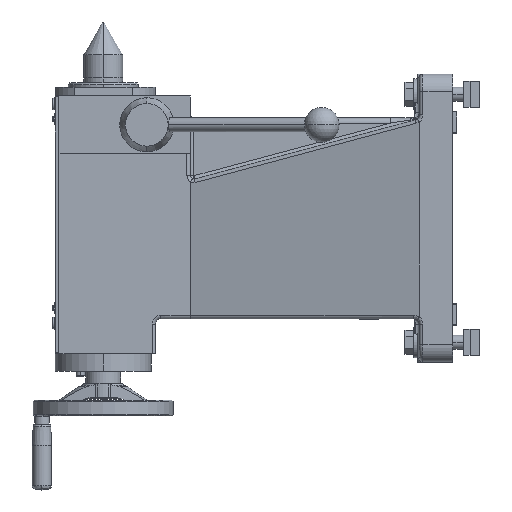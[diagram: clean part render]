
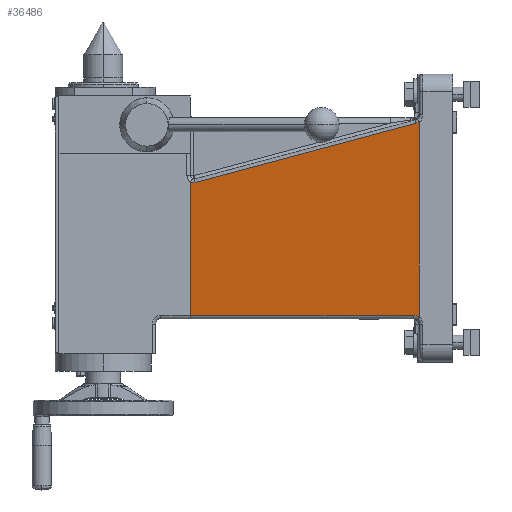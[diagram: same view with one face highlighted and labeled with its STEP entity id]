
A CAD part, left-side view. The second image highlights one B-rep face of the part: STEP entity #36486.
In plain terms, the highlighted planar face has unit normal (-0.975, 0.223, 0).
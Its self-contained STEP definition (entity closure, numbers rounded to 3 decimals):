
#2150 = CARTESIAN_POINT ( 'NONE',  ( -70., 300., -276. ) ) ;
#5100 = CARTESIAN_POINT ( 'NONE',  ( -129.532, 40.042, -276.902 ) ) ;
#5140 =( BOUNDED_CURVE ( )  B_SPLINE_CURVE ( 3, ( #74798, #40027, #5100, #45929 ),
 .UNSPECIFIED., .F., .F. ) 
 B_SPLINE_CURVE_WITH_KNOTS ( ( 4, 4 ),
 ( 1.571, 2.306 ),
 .UNSPECIFIED. ) 
 CURVE ( )  GEOMETRIC_REPRESENTATION_ITEM ( )  RATIONAL_B_SPLINE_CURVE ( ( 1., 0.955, 0.955, 1. ) ) 
 REPRESENTATION_ITEM ( '' )  );
#7210 = CARTESIAN_POINT ( 'NONE',  ( -130., 38., -312. ) ) ;
#7223 = CARTESIAN_POINT ( 'NONE',  ( -129.958, 38.182, -54.11 ) ) ;
#7403 = CARTESIAN_POINT ( 'NONE',  ( -71.186, 294.822, -124.017 ) ) ;
#7612 = CARTESIAN_POINT ( 'NONE',  ( -70., 300., -123.662 ) ) ;
#9953 = LINE ( 'NONE', #35802, #25435 ) ;
#10918 = CARTESIAN_POINT ( 'NONE',  ( -129.984, 38.069, -54.285 ) ) ;
#11394 = ORIENTED_EDGE ( 'NONE', *, *, #54700, .T. ) ;
#11912 = VERTEX_POINT ( 'NONE', #54170 ) ;
#12667 = CARTESIAN_POINT ( 'NONE',  ( -71.186, 294.822, -124.017 ) ) ;
#13870 = VERTEX_POINT ( 'NONE', #58529 ) ;
#14483 = LINE ( 'NONE', #25034, #72706 ) ;
#16163 = VERTEX_POINT ( 'NONE', #24590 ) ;
#16277 = CARTESIAN_POINT ( 'NONE',  ( -129.984, 38.069, -278.412 ) ) ;
#16801 = CARTESIAN_POINT ( 'NONE',  ( -129.958, 38.182, -54.11 ) ) ;
#16862 = EDGE_CURVE ( 'NONE', #45874, #43567, #32208, .T. ) ;
#17243 = FACE_OUTER_BOUND ( 'NONE', #44097, .T. ) ;
#21606 = VERTEX_POINT ( 'NONE', #7612 ) ;
#22131 = CARTESIAN_POINT ( 'NONE',  ( -130., 38., -278.105 ) ) ;
#24074 = ORIENTED_EDGE ( 'NONE', *, *, #53582, .T. ) ;
#24366 = CARTESIAN_POINT ( 'NONE',  ( -70., 300., -123.662 ) ) ;
#24509 = CARTESIAN_POINT ( 'NONE',  ( -129.688, 39.364, -55.18 ) ) ;
#24590 = CARTESIAN_POINT ( 'NONE',  ( -129.958, 38.182, -54.11 ) ) ;
#25014 = CARTESIAN_POINT ( 'NONE',  ( -70., 300., -276. ) ) ;
#25034 = CARTESIAN_POINT ( 'NONE',  ( -70., 300., 0. ) ) ;
#25435 = VECTOR ( 'NONE', #47014, 1000. ) ;
#25732 = ORIENTED_EDGE ( 'NONE', *, *, #16862, .T. ) ;
#27209 = CARTESIAN_POINT ( 'NONE',  ( -70., 300., -312. ) ) ;
#27749 = CARTESIAN_POINT ( 'NONE',  ( -129.974, 38.115, -278.505 ) ) ;
#28410 = VERTEX_POINT ( 'NONE', #7403 ) ;
#28744 = B_SPLINE_CURVE_WITH_KNOTS ( 'NONE', 3,
 ( #68421, #27749, #16277, #56978, #22131, #62841 ),
 .UNSPECIFIED., .F., .F.,
 ( 4, 2, 4 ),
 ( 0., 0., 0.001 ),
 .UNSPECIFIED. ) ;
#29275 = VECTOR ( 'NONE', #53802, 1000. ) ;
#29707 = EDGE_CURVE ( 'NONE', #16163, #36391, #53544, .T. ) ;
#30398 = VECTOR ( 'NONE', #59872, 1000. ) ;
#30601 = EDGE_CURVE ( 'NONE', #28410, #21606, #70279, .T. ) ;
#30650 = CARTESIAN_POINT ( 'NONE',  ( -129.367, 40.764, -55.943 ) ) ;
#30902 = DIRECTION ( 'NONE',  ( 0., 0., 1. ) ) ;
#32208 = LINE ( 'NONE', #25014, #30398 ) ;
#34162 = CARTESIAN_POINT ( 'NONE',  ( -130., 38., -54.696 ) ) ;
#34720 = AXIS2_PLACEMENT_3D ( 'NONE', #27209, #73715, #38972 ) ;
#35802 = CARTESIAN_POINT ( 'NONE',  ( -59.815, 344.473, -137.321 ) ) ;
#36391 = VERTEX_POINT ( 'NONE', #55250 ) ;
#36486 = ADVANCED_FACE ( 'NONE', ( #17243 ), #50411, .F. ) ;
#36661 = ORIENTED_EDGE ( 'NONE', *, *, #67414, .T. ) ;
#38972 = DIRECTION ( 'NONE',  ( 0.223, 0.975, 0. ) ) ;
#40027 = CARTESIAN_POINT ( 'NONE',  ( -128.996, 42.384, -276. ) ) ;
#40280 = CARTESIAN_POINT ( 'NONE',  ( -128.421, 44.893, -276. ) ) ;
#41039 = CARTESIAN_POINT ( 'NONE',  ( -130., 38., -278. ) ) ;
#41456 = EDGE_CURVE ( 'NONE', #36391, #28410, #9953, .T. ) ;
#41766 = CARTESIAN_POINT ( 'NONE',  ( -70.789, 296.556, -124.482 ) ) ;
#43567 = VERTEX_POINT ( 'NONE', #40280 ) ;
#44097 = EDGE_LOOP ( 'NONE', ( #66941, #36661, #70723, #62753, #69850, #58754, #25732, #11394, #24074 ) ) ;
#44819 = LINE ( 'NONE', #7210, #29275 ) ;
#45874 = VERTEX_POINT ( 'NONE', #2150 ) ;
#45910 = CARTESIAN_POINT ( 'NONE',  ( -129.997, 38.011, -54.487 ) ) ;
#45929 = CARTESIAN_POINT ( 'NONE',  ( -129.958, 38.182, -278.586 ) ) ;
#47014 = DIRECTION ( 'NONE',  ( 0.216, 0.943, -0.253 ) ) ;
#50411 = PLANE ( 'NONE',  #34720 ) ;
#51711 = CARTESIAN_POINT ( 'NONE',  ( -129.974, 38.116, -54.191 ) ) ;
#53544 =( BOUNDED_CURVE ( )  B_SPLINE_CURVE ( 3, ( #7223, #24509, #30650, #71297 ),
 .UNSPECIFIED., .F., .F. ) 
 B_SPLINE_CURVE_WITH_KNOTS ( ( 4, 4 ),
 ( 3.977, 4.451 ),
 .UNSPECIFIED. ) 
 CURVE ( )  GEOMETRIC_REPRESENTATION_ITEM ( )  RATIONAL_B_SPLINE_CURVE ( ( 1., 0.981, 0.981, 1. ) ) 
 REPRESENTATION_ITEM ( '' )  );
#53582 = EDGE_CURVE ( 'NONE', #13870, #56426, #28744, .T. ) ;
#53802 = DIRECTION ( 'NONE',  ( 0., 0., 1. ) ) ;
#54170 = CARTESIAN_POINT ( 'NONE',  ( -130., 38., -54.696 ) ) ;
#54700 = EDGE_CURVE ( 'NONE', #43567, #13870, #5140, .T. ) ;
#55250 = CARTESIAN_POINT ( 'NONE',  ( -129.014, 42.305, -56.355 ) ) ;
#55941 = EDGE_CURVE ( 'NONE', #56426, #11912, #44819, .T. ) ;
#56426 = VERTEX_POINT ( 'NONE', #41039 ) ;
#56978 = CARTESIAN_POINT ( 'NONE',  ( -129.997, 38.011, -278.209 ) ) ;
#58529 = CARTESIAN_POINT ( 'NONE',  ( -129.958, 38.182, -278.586 ) ) ;
#58754 = ORIENTED_EDGE ( 'NONE', *, *, #71220, .F. ) ;
#59237 = CARTESIAN_POINT ( 'NONE',  ( -70.379, 298.346, -124.359 ) ) ;
#59872 = DIRECTION ( 'NONE',  ( -0.223, -0.975, 0. ) ) ;
#62753 = ORIENTED_EDGE ( 'NONE', *, *, #41456, .T. ) ;
#62841 = CARTESIAN_POINT ( 'NONE',  ( -130., 38., -278. ) ) ;
#66941 = ORIENTED_EDGE ( 'NONE', *, *, #55941, .T. ) ;
#67414 = EDGE_CURVE ( 'NONE', #11912, #16163, #70633, .T. ) ;
#68421 = CARTESIAN_POINT ( 'NONE',  ( -129.958, 38.182, -278.586 ) ) ;
#68693 = CARTESIAN_POINT ( 'NONE',  ( -130., 38., -54.591 ) ) ;
#69850 = ORIENTED_EDGE ( 'NONE', *, *, #30601, .T. ) ;
#70279 =( BOUNDED_CURVE ( )  B_SPLINE_CURVE ( 3, ( #12667, #41766, #59237, #24366 ),
 .UNSPECIFIED., .F., .F. ) 
 B_SPLINE_CURVE_WITH_KNOTS ( ( 4, 4 ),
 ( 4.451, 5.111 ),
 .UNSPECIFIED. ) 
 CURVE ( )  GEOMETRIC_REPRESENTATION_ITEM ( )  RATIONAL_B_SPLINE_CURVE ( ( 1., 0.964, 0.964, 1. ) ) 
 REPRESENTATION_ITEM ( '' )  );
#70633 = B_SPLINE_CURVE_WITH_KNOTS ( 'NONE', 3,
 ( #34162, #68693, #45910, #10918, #51711, #16801 ),
 .UNSPECIFIED., .F., .F.,
 ( 4, 2, 4 ),
 ( 0., 0., 0.001 ),
 .UNSPECIFIED. ) ;
#70723 = ORIENTED_EDGE ( 'NONE', *, *, #29707, .T. ) ;
#71220 = EDGE_CURVE ( 'NONE', #45874, #21606, #14483, .T. ) ;
#71297 = CARTESIAN_POINT ( 'NONE',  ( -129.014, 42.305, -56.355 ) ) ;
#72706 = VECTOR ( 'NONE', #30902, 1000. ) ;
#73715 = DIRECTION ( 'NONE',  ( 0.975, -0.223, 0. ) ) ;
#74798 = CARTESIAN_POINT ( 'NONE',  ( -128.421, 44.893, -276. ) ) ;
